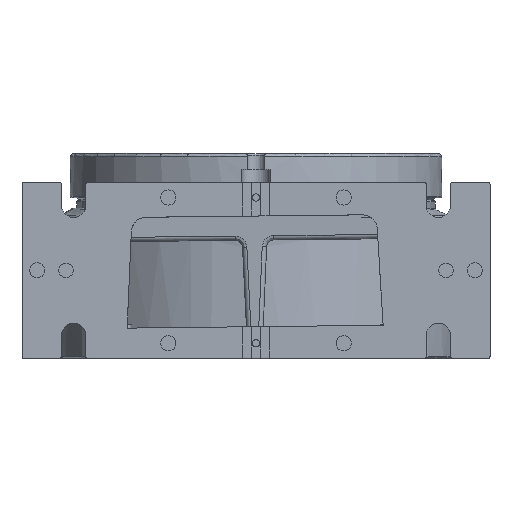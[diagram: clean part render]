
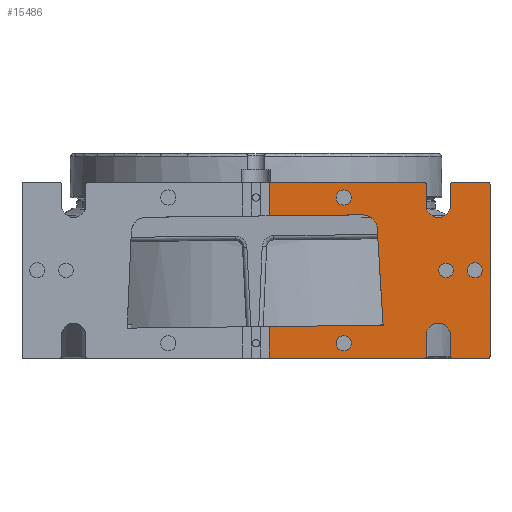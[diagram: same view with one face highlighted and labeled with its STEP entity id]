
A CAD part, top view. The second image highlights one B-rep face of the part: STEP entity #15486.
In plain terms, the highlighted planar face has unit normal (0, 0, 1).
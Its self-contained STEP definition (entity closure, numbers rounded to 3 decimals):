
#4169=DIRECTION('',(-1.,0.,0.));
#4170=VECTOR('',#4169,106.7);
#4171=CARTESIAN_POINT('',(115.7,60.2,160.));
#4172=LINE('',#4171,#4170);
#4339=CARTESIAN_POINT('',(159.5,-59.2,160.));
#4340=DIRECTION('',(0.,0.,-1.));
#4341=DIRECTION('',(1.,0.,0.));
#4342=AXIS2_PLACEMENT_3D('',#4339,#4340,#4341);
#4344=CARTESIAN_POINT('',(134.5,-59.2,160.));
#4345=DIRECTION('',(0.,0.,-1.));
#4346=DIRECTION('',(0.,-1.,0.));
#4347=AXIS2_PLACEMENT_3D('',#4344,#4345,#4346);
#4349=DIRECTION('',(0.,1.,0.));
#4350=VECTOR('',#4349,14.6);
#4351=CARTESIAN_POINT('',(133.5,-59.2,160.));
#4352=LINE('',#4351,#4350);
#4353=CARTESIAN_POINT('',(125.1,-44.6,160.));
#4354=DIRECTION('',(0.,0.,1.));
#4355=DIRECTION('',(1.,0.,0.));
#4356=AXIS2_PLACEMENT_3D('',#4353,#4354,#4355);
#4358=CARTESIAN_POINT('',(115.7,-59.2,160.));
#4359=DIRECTION('',(0.,0.,-1.));
#4360=DIRECTION('',(1.,0.,0.));
#4361=AXIS2_PLACEMENT_3D('',#4358,#4359,#4360);
#4363=DIRECTION('',(-1.,0.,0.));
#4364=VECTOR('',#4363,106.7);
#4365=CARTESIAN_POINT('',(115.7,-60.2,160.));
#4366=LINE('',#4365,#4364);
#4367=DIRECTION('',(1.,0.011,0.));
#4368=VECTOR('',#4367,78.205);
#4369=CARTESIAN_POINT('',(9.,-38.518,160.));
#4370=LINE('',#4369,#4368);
#4371=DIRECTION('',(-0.061,0.998,0.));
#4372=VECTOR('',#4371,66.488);
#4373=CARTESIAN_POINT('',(87.2,-37.65,160.));
#4374=LINE('',#4373,#4372);
#4375=CARTESIAN_POINT('',(73.16,28.103,160.));
#4376=DIRECTION('',(0.,0.,1.));
#4377=DIRECTION('',(0.998,0.061,0.));
#4378=AXIS2_PLACEMENT_3D('',#4375,#4376,#4377);
#4380=DIRECTION('',(-1.,-0.011,0.));
#4381=VECTOR('',#4380,64.053);
#4382=CARTESIAN_POINT('',(73.049,38.103,160.));
#4383=LINE('',#4382,#4381);
#4384=CARTESIAN_POINT('',(115.7,59.2,160.));
#4385=DIRECTION('',(0.,0.,-1.));
#4386=DIRECTION('',(0.,1.,0.));
#4387=AXIS2_PLACEMENT_3D('',#4384,#4385,#4386);
#4389=DIRECTION('',(0.,-1.,0.));
#4390=VECTOR('',#4389,14.6);
#4391=CARTESIAN_POINT('',(116.7,59.2,160.));
#4392=LINE('',#4391,#4390);
#4393=CARTESIAN_POINT('',(125.1,44.6,160.));
#4394=DIRECTION('',(0.,0.,1.));
#4395=DIRECTION('',(-1.,0.,0.));
#4396=AXIS2_PLACEMENT_3D('',#4393,#4394,#4395);
#4398=CARTESIAN_POINT('',(134.5,59.2,160.));
#4399=DIRECTION('',(0.,0.,-1.));
#4400=DIRECTION('',(-1.,0.,0.));
#4401=AXIS2_PLACEMENT_3D('',#4398,#4399,#4400);
#4403=DIRECTION('',(1.,0.,0.));
#4404=VECTOR('',#4403,25.);
#4405=CARTESIAN_POINT('',(134.5,60.2,160.));
#4406=LINE('',#4405,#4404);
#4407=CARTESIAN_POINT('',(159.5,59.2,160.));
#4408=DIRECTION('',(0.,0.,-1.));
#4409=DIRECTION('',(0.,1.,0.));
#4410=AXIS2_PLACEMENT_3D('',#4407,#4408,#4409);
#4412=DIRECTION('',(0.,-1.,0.));
#4413=VECTOR('',#4412,118.4);
#4414=CARTESIAN_POINT('',(160.5,59.2,160.));
#4415=LINE('',#4414,#4413);
#4416=CARTESIAN_POINT('',(60.2,-50.,160.));
#4417=DIRECTION('',(0.,0.,1.));
#4418=DIRECTION('',(-1.,0.,0.));
#4419=AXIS2_PLACEMENT_3D('',#4416,#4417,#4418);
#4421=CARTESIAN_POINT('',(60.2,-50.,160.));
#4422=DIRECTION('',(0.,0.,1.));
#4423=DIRECTION('',(1.,0.,0.));
#4424=AXIS2_PLACEMENT_3D('',#4421,#4422,#4423);
#4426=CARTESIAN_POINT('',(60.2,50.,160.));
#4427=DIRECTION('',(0.,0.,1.));
#4428=DIRECTION('',(-1.,0.,0.));
#4429=AXIS2_PLACEMENT_3D('',#4426,#4427,#4428);
#4431=CARTESIAN_POINT('',(60.2,50.,160.));
#4432=DIRECTION('',(0.,0.,1.));
#4433=DIRECTION('',(1.,0.,0.));
#4434=AXIS2_PLACEMENT_3D('',#4431,#4432,#4433);
#4436=CARTESIAN_POINT('',(150.1,0.,160.));
#4437=DIRECTION('',(0.,0.,1.));
#4438=DIRECTION('',(-1.,0.,0.));
#4439=AXIS2_PLACEMENT_3D('',#4436,#4437,#4438);
#4441=CARTESIAN_POINT('',(150.1,0.,160.));
#4442=DIRECTION('',(0.,0.,1.));
#4443=DIRECTION('',(1.,0.,0.));
#4444=AXIS2_PLACEMENT_3D('',#4441,#4442,#4443);
#4446=CARTESIAN_POINT('',(130.4,0.,160.));
#4447=DIRECTION('',(0.,0.,1.));
#4448=DIRECTION('',(-1.,0.,0.));
#4449=AXIS2_PLACEMENT_3D('',#4446,#4447,#4448);
#4451=CARTESIAN_POINT('',(130.4,0.,160.));
#4452=DIRECTION('',(0.,0.,1.));
#4453=DIRECTION('',(1.,0.,0.));
#4454=AXIS2_PLACEMENT_3D('',#4451,#4452,#4453);
#4544=DIRECTION('',(0.,1.,0.));
#4545=VECTOR('',#4544,14.6);
#4546=CARTESIAN_POINT('',(116.7,-59.2,160.));
#4547=LINE('',#4546,#4545);
#4574=DIRECTION('',(1.,0.,0.));
#4575=VECTOR('',#4574,25.);
#4576=CARTESIAN_POINT('',(134.5,-60.2,160.));
#4577=LINE('',#4576,#4575);
#4578=DIRECTION('',(0.,-1.,0.));
#4579=VECTOR('',#4578,21.682);
#4580=CARTESIAN_POINT('',(9.,-38.518,160.));
#4581=LINE('',#4580,#4579);
#4658=DIRECTION('',(0.,-1.,0.));
#4659=VECTOR('',#4658,22.809);
#4660=CARTESIAN_POINT('',(9.,60.2,160.));
#4661=LINE('',#4660,#4659);
#4746=DIRECTION('',(0.,-1.,0.));
#4747=VECTOR('',#4746,14.6);
#4748=CARTESIAN_POINT('',(133.5,59.2,160.));
#4749=LINE('',#4748,#4747);
#8319=CARTESIAN_POINT('',(133.5,-59.2,160.));
#8320=VERTEX_POINT('',#8319);
#8321=CARTESIAN_POINT('',(134.5,-60.2,160.));
#8322=VERTEX_POINT('',#8321);
#8325=CARTESIAN_POINT('',(133.5,-44.6,160.));
#8326=VERTEX_POINT('',#8325);
#8331=CARTESIAN_POINT('',(116.7,-44.6,160.));
#8332=VERTEX_POINT('',#8331);
#8335=CARTESIAN_POINT('',(116.7,-59.2,160.));
#8336=VERTEX_POINT('',#8335);
#8339=CARTESIAN_POINT('',(115.7,-60.2,160.));
#8340=VERTEX_POINT('',#8339);
#8359=CARTESIAN_POINT('',(9.,-60.2,160.));
#8360=VERTEX_POINT('',#8359);
#8381=CARTESIAN_POINT('',(159.5,-60.2,160.));
#8382=VERTEX_POINT('',#8381);
#8385=CARTESIAN_POINT('',(160.5,-59.2,160.));
#8386=VERTEX_POINT('',#8385);
#8387=CARTESIAN_POINT('',(9.,-38.518,160.));
#8388=VERTEX_POINT('',#8387);
#8389=CARTESIAN_POINT('',(87.2,-37.65,160.));
#8390=VERTEX_POINT('',#8389);
#8391=CARTESIAN_POINT('',(83.141,28.714,160.));
#8392=VERTEX_POINT('',#8391);
#8393=CARTESIAN_POINT('',(73.049,38.103,160.));
#8394=VERTEX_POINT('',#8393);
#8395=CARTESIAN_POINT('',(9.,37.391,160.));
#8396=VERTEX_POINT('',#8395);
#8397=CARTESIAN_POINT('',(9.,60.2,160.));
#8398=VERTEX_POINT('',#8397);
#8399=CARTESIAN_POINT('',(115.7,60.2,160.));
#8400=VERTEX_POINT('',#8399);
#8401=CARTESIAN_POINT('',(116.7,59.2,160.));
#8402=VERTEX_POINT('',#8401);
#8403=CARTESIAN_POINT('',(116.7,44.6,160.));
#8404=VERTEX_POINT('',#8403);
#8405=CARTESIAN_POINT('',(133.5,44.6,160.));
#8406=VERTEX_POINT('',#8405);
#8407=CARTESIAN_POINT('',(133.5,59.2,160.));
#8408=VERTEX_POINT('',#8407);
#8409=CARTESIAN_POINT('',(134.5,60.2,160.));
#8410=VERTEX_POINT('',#8409);
#8411=CARTESIAN_POINT('',(159.5,60.2,160.));
#8412=VERTEX_POINT('',#8411);
#8413=CARTESIAN_POINT('',(160.5,59.2,160.));
#8414=VERTEX_POINT('',#8413);
#8415=CARTESIAN_POINT('',(55.,-50.,160.));
#8416=CARTESIAN_POINT('',(65.4,-50.,160.));
#8417=VERTEX_POINT('',#8415);
#8418=VERTEX_POINT('',#8416);
#8419=CARTESIAN_POINT('',(55.,50.,160.));
#8420=CARTESIAN_POINT('',(65.4,50.,160.));
#8421=VERTEX_POINT('',#8419);
#8422=VERTEX_POINT('',#8420);
#8423=CARTESIAN_POINT('',(144.9,0.,160.));
#8424=CARTESIAN_POINT('',(155.3,0.,160.));
#8425=VERTEX_POINT('',#8423);
#8426=VERTEX_POINT('',#8424);
#8427=CARTESIAN_POINT('',(125.4,0.,160.));
#8428=CARTESIAN_POINT('',(135.4,0.,160.));
#8429=VERTEX_POINT('',#8427);
#8430=VERTEX_POINT('',#8428);
#15416=CARTESIAN_POINT('',(160.454,60.2,160.));
#15417=DIRECTION('',(0.,0.,1.));
#15418=DIRECTION('',(-1.,0.,0.));
#15419=AXIS2_PLACEMENT_3D('',#15416,#15417,#15418);
#15420=PLANE('',#15419);
#15422=ORIENTED_EDGE('',*,*,#15421,.T.);
#15424=ORIENTED_EDGE('',*,*,#15423,.F.);
#15426=ORIENTED_EDGE('',*,*,#15425,.T.);
#15428=ORIENTED_EDGE('',*,*,#15427,.T.);
#15430=ORIENTED_EDGE('',*,*,#15429,.T.);
#15432=ORIENTED_EDGE('',*,*,#15431,.F.);
#15434=ORIENTED_EDGE('',*,*,#15433,.T.);
#15435=ORIENTED_EDGE('',*,*,#14477,.T.);
#15437=ORIENTED_EDGE('',*,*,#15436,.F.);
#15438=ORIENTED_EDGE('',*,*,#14507,.T.);
#15439=ORIENTED_EDGE('',*,*,#14740,.T.);
#15440=ORIENTED_EDGE('',*,*,#14754,.T.);
#15441=ORIENTED_EDGE('',*,*,#14785,.T.);
#15443=ORIENTED_EDGE('',*,*,#15442,.F.);
#15444=ORIENTED_EDGE('',*,*,#14966,.F.);
#15446=ORIENTED_EDGE('',*,*,#15445,.T.);
#15448=ORIENTED_EDGE('',*,*,#15447,.T.);
#15450=ORIENTED_EDGE('',*,*,#15449,.T.);
#15452=ORIENTED_EDGE('',*,*,#15451,.F.);
#15454=ORIENTED_EDGE('',*,*,#15453,.T.);
#15456=ORIENTED_EDGE('',*,*,#15455,.T.);
#15457=ORIENTED_EDGE('',*,*,#15406,.T.);
#15459=ORIENTED_EDGE('',*,*,#15458,.T.);
#15460=EDGE_LOOP('',(#15422,#15424,#15426,#15428,#15430,#15432,#15434,#15435,
#15437,#15438,#15439,#15440,#15441,#15443,#15444,#15446,#15448,#15450,#15452,
#15454,#15456,#15457,#15459));
#15461=FACE_OUTER_BOUND('',#15460,.F.);
#15463=ORIENTED_EDGE('',*,*,#15462,.T.);
#15465=ORIENTED_EDGE('',*,*,#15464,.T.);
#15466=EDGE_LOOP('',(#15463,#15465));
#15467=FACE_BOUND('',#15466,.F.);
#15469=ORIENTED_EDGE('',*,*,#15468,.T.);
#15471=ORIENTED_EDGE('',*,*,#15470,.T.);
#15472=EDGE_LOOP('',(#15469,#15471));
#15473=FACE_BOUND('',#15472,.F.);
#15475=ORIENTED_EDGE('',*,*,#15474,.T.);
#15477=ORIENTED_EDGE('',*,*,#15476,.T.);
#15478=EDGE_LOOP('',(#15475,#15477));
#15479=FACE_BOUND('',#15478,.F.);
#15481=ORIENTED_EDGE('',*,*,#15480,.T.);
#15483=ORIENTED_EDGE('',*,*,#15482,.T.);
#15484=EDGE_LOOP('',(#15481,#15483));
#15485=FACE_BOUND('',#15484,.F.);
#4343=CIRCLE('',#4342,1.);
#4348=CIRCLE('',#4347,1.);
#4357=CIRCLE('',#4356,8.4);
#4362=CIRCLE('',#4361,1.);
#4379=CIRCLE('',#4378,10.);
#4388=CIRCLE('',#4387,1.);
#4397=CIRCLE('',#4396,8.4);
#4402=CIRCLE('',#4401,1.);
#4411=CIRCLE('',#4410,1.);
#4420=CIRCLE('',#4419,5.2);
#4425=CIRCLE('',#4424,5.2);
#4430=CIRCLE('',#4429,5.2);
#4435=CIRCLE('',#4434,5.2);
#4440=CIRCLE('',#4439,5.2);
#4445=CIRCLE('',#4444,5.2);
#4450=CIRCLE('',#4449,5.);
#4455=CIRCLE('',#4454,5.);
#14477=EDGE_CURVE('',#8340,#8360,#4366,.T.);
#14507=EDGE_CURVE('',#8388,#8390,#4370,.T.);
#14740=EDGE_CURVE('',#8390,#8392,#4374,.T.);
#14754=EDGE_CURVE('',#8392,#8394,#4379,.T.);
#14785=EDGE_CURVE('',#8394,#8396,#4383,.T.);
#14966=EDGE_CURVE('',#8400,#8398,#4172,.T.);
#15406=EDGE_CURVE('',#8412,#8414,#4411,.T.);
#15421=EDGE_CURVE('',#8386,#8382,#4343,.T.);
#15423=EDGE_CURVE('',#8322,#8382,#4577,.T.);
#15425=EDGE_CURVE('',#8322,#8320,#4348,.T.);
#15427=EDGE_CURVE('',#8320,#8326,#4352,.T.);
#15429=EDGE_CURVE('',#8326,#8332,#4357,.T.);
#15431=EDGE_CURVE('',#8336,#8332,#4547,.T.);
#15433=EDGE_CURVE('',#8336,#8340,#4362,.T.);
#15436=EDGE_CURVE('',#8388,#8360,#4581,.T.);
#15442=EDGE_CURVE('',#8398,#8396,#4661,.T.);
#15445=EDGE_CURVE('',#8400,#8402,#4388,.T.);
#15447=EDGE_CURVE('',#8402,#8404,#4392,.T.);
#15449=EDGE_CURVE('',#8404,#8406,#4397,.T.);
#15451=EDGE_CURVE('',#8408,#8406,#4749,.T.);
#15453=EDGE_CURVE('',#8408,#8410,#4402,.T.);
#15455=EDGE_CURVE('',#8410,#8412,#4406,.T.);
#15458=EDGE_CURVE('',#8414,#8386,#4415,.T.);
#15462=EDGE_CURVE('',#8417,#8418,#4420,.T.);
#15464=EDGE_CURVE('',#8418,#8417,#4425,.T.);
#15468=EDGE_CURVE('',#8421,#8422,#4430,.T.);
#15470=EDGE_CURVE('',#8422,#8421,#4435,.T.);
#15474=EDGE_CURVE('',#8425,#8426,#4440,.T.);
#15476=EDGE_CURVE('',#8426,#8425,#4445,.T.);
#15480=EDGE_CURVE('',#8429,#8430,#4450,.T.);
#15482=EDGE_CURVE('',#8430,#8429,#4455,.T.);
#15486=ADVANCED_FACE('',(#15461,#15467,#15473,#15479,#15485),#15420,.T.);
